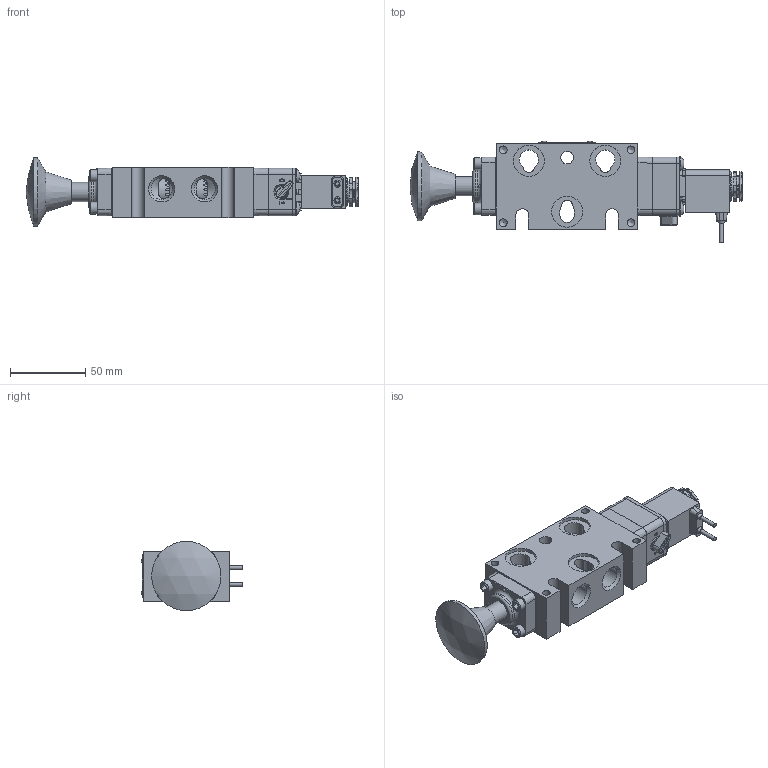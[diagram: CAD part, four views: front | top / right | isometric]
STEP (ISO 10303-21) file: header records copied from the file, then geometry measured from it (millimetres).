
FILE_DESCRIPTION(/* description */ (''),/* implementation_level */ '2;1');
FILE_NAME(/* name */ 'EBSAK3MOCZ.stp',/* time_stamp */ '2026-09-07T10:40:37-04:00',/* author */ ('rmckenna'),/* organization */ (''),/* preprocessor_version */ 'ST-DEVELOPER v20.2',/* originating_system */ 'Autodesk Inventor 2027',/* authorisation */ '');
FILE_SCHEMA (('AUTOMOTIVE_DESIGN { 1 0 10303 214 3 1 1 }'));
Length unit declared in the file: centimetre
Products named in the file (1): Part42
Bounding box: 220.78 x 67.41 x 46.04 mm (x, y, z)
Volume: 216807.6 mm3; surface area: 80457.8 mm2
Topology: 1 solids, 25 shells, 1542 faces, 3739 edges, 2369 vertices
Faces by surface type: plane 627, cylinder 437, cone 266, torus 159, bspline 45, sphere 8
Full cylindrical faces by diameter (mm): 1.168 x10, 1.3 x1, 1.397 x1, 1.5 x1, 2.032 x4, 2.07 x2, 2.261 x2, 2.35 x4, 2.5 x1, 2.54 x2, 2.778 x2, 2.8 x1, 3 x4, 3.048 x2, 3.175 x1, 3.4 x1, 3.683 x10, 4.191 x2, 4.826 x8, 5.15 x4, 5.156 x12, 5.5 x1, 6.401 x2, 6.65 x1, 7.29 x1, 7.9 x1, 7.938 x4, 8 x2, 8.334 x1, 8.433 x1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
Entity records: 50901 total; most frequent: CARTESIAN_POINT 12630, DIRECTION 7858, ORIENTED_EDGE 7444, EDGE_CURVE 3722, AXIS2_PLACEMENT_3D 3062, VERTEX_POINT 2368, EDGE_LOOP 1768, LINE 1734
